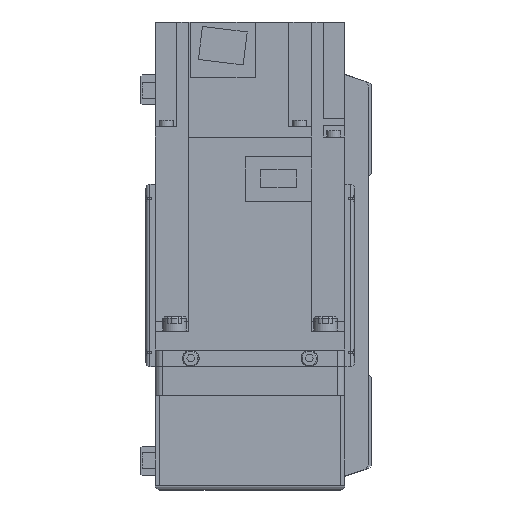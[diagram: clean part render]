
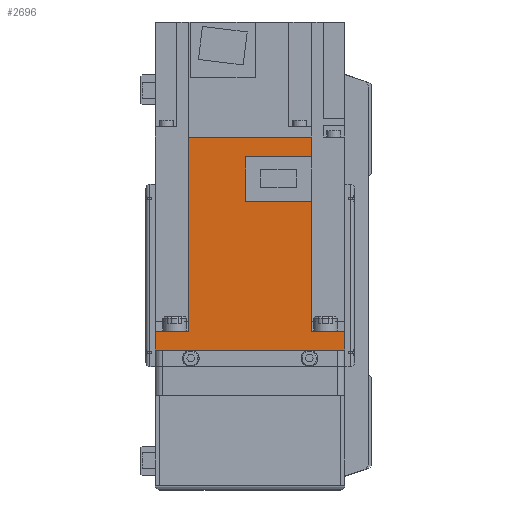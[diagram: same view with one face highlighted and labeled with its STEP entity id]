
A CAD part, left-side view. The second image highlights one B-rep face of the part: STEP entity #2696.
In plain terms, the highlighted planar face has unit normal (-1, 0, 0) as drawn and (1, 0, 0) by its records, which use the part's own axes.
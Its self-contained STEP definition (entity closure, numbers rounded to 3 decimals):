
#2696 = ADVANCED_FACE( '', ( #5877 ), #5878, .F. );
#5877 = FACE_OUTER_BOUND( '', #9433, .T. );
#5878 = PLANE( '', #9434 );
#9433 = EDGE_LOOP( '', ( #16986, #16987, #16988, #16989, #16990, #16991, #16992, #16993, #16994, #16995, #16996, #16997 ) );
#9434 = AXIS2_PLACEMENT_3D( '', #16998, #16999, #17000 );
#16986 = ORIENTED_EDGE( '', *, *, #23080, .F. );
#16987 = ORIENTED_EDGE( '', *, *, #23081, .F. );
#16988 = ORIENTED_EDGE( '', *, *, #23082, .F. );
#16989 = ORIENTED_EDGE( '', *, *, #22495, .T. );
#16990 = ORIENTED_EDGE( '', *, *, #22248, .F. );
#16991 = ORIENTED_EDGE( '', *, *, #23083, .T. );
#16992 = ORIENTED_EDGE( '', *, *, #20124, .T. );
#16993 = ORIENTED_EDGE( '', *, *, #21661, .F. );
#16994 = ORIENTED_EDGE( '', *, *, #23084, .F. );
#16995 = ORIENTED_EDGE( '', *, *, #23085, .F. );
#16996 = ORIENTED_EDGE( '', *, *, #23086, .F. );
#16997 = ORIENTED_EDGE( '', *, *, #20557, .F. );
#16998 = CARTESIAN_POINT( '', ( 40., 89.8, 40. ) );
#16999 = DIRECTION( '', ( -1., 0., 0. ) );
#17000 = DIRECTION( '', ( 0., 0., 1. ) );
#20124 = EDGE_CURVE( '', #23884, #23882, #23885, .T. );
#20557 = EDGE_CURVE( '', #24657, #24658, #24659, .T. );
#21661 = EDGE_CURVE( '', #26472, #23882, #26474, .T. );
#22248 = EDGE_CURVE( '', #27360, #27362, #27363, .T. );
#22495 = EDGE_CURVE( '', #27715, #27362, #27716, .T. );
#23080 = EDGE_CURVE( '', #28477, #24657, #28478, .T. );
#23081 = EDGE_CURVE( '', #28479, #28477, #28480, .T. );
#23082 = EDGE_CURVE( '', #27715, #28479, #28481, .T. );
#23083 = EDGE_CURVE( '', #27360, #23884, #28482, .T. );
#23084 = EDGE_CURVE( '', #28483, #26472, #28484, .T. );
#23085 = EDGE_CURVE( '', #28485, #28483, #28486, .T. );
#23086 = EDGE_CURVE( '', #24658, #28485, #28487, .T. );
#23882 = VERTEX_POINT( '', #29459 );
#23884 = VERTEX_POINT( '', #29462 );
#23885 = LINE( '', #29463, #29464 );
#24657 = VERTEX_POINT( '', #30539 );
#24658 = VERTEX_POINT( '', #30540 );
#24659 = LINE( '', #30541, #30542 );
#26472 = VERTEX_POINT( '', #33271 );
#26474 = LINE( '', #33274, #33275 );
#27360 = VERTEX_POINT( '', #34891 );
#27362 = VERTEX_POINT( '', #34894 );
#27363 = LINE( '', #34895, #34896 );
#27715 = VERTEX_POINT( '', #35383 );
#27716 = LINE( '', #35384, #35385 );
#28477 = VERTEX_POINT( '', #36490 );
#28478 = LINE( '', #36491, #36492 );
#28479 = VERTEX_POINT( '', #36493 );
#28480 = LINE( '', #36494, #36495 );
#28481 = LINE( '', #36496, #36497 );
#28482 = LINE( '', #36498, #36499 );
#28483 = VERTEX_POINT( '', #36500 );
#28484 = LINE( '', #36501, #36502 );
#28485 = VERTEX_POINT( '', #36503 );
#28486 = LINE( '', #36504, #36505 );
#28487 = LINE( '', #36506, #36507 );
#29459 = CARTESIAN_POINT( '', ( 40., 0., -40. ) );
#29462 = CARTESIAN_POINT( '', ( 40., 0., 40. ) );
#29463 = CARTESIAN_POINT( '', ( 40., 0., 40. ) );
#29464 = VECTOR( '', #37685, 1000. );
#30539 = CARTESIAN_POINT( '', ( 40., 81.4, 1.8 ) );
#30540 = CARTESIAN_POINT( '', ( 40., 62.8, 1.8 ) );
#30541 = CARTESIAN_POINT( '', ( 40., 81.4, 1.8 ) );
#30542 = VECTOR( '', #38276, 1000. );
#33271 = CARTESIAN_POINT( '', ( 40., 8., -40. ) );
#33274 = CARTESIAN_POINT( '', ( 40., 89.8, -40. ) );
#33275 = VECTOR( '', #39681, 1000. );
#34891 = CARTESIAN_POINT( '', ( 40., 8., 40. ) );
#34894 = CARTESIAN_POINT( '', ( 40., 8., 25.95 ) );
#34895 = CARTESIAN_POINT( '', ( 40., 8., 40. ) );
#34896 = VECTOR( '', #40405, 1000. );
#35383 = CARTESIAN_POINT( '', ( 40., 89.8, 25.95 ) );
#35384 = CARTESIAN_POINT( '', ( 40., 158., 25.95 ) );
#35385 = VECTOR( '', #40697, 1000. );
#36490 = CARTESIAN_POINT( '', ( 40., 81.4, -25.95 ) );
#36491 = CARTESIAN_POINT( '', ( 40., 81.4, -26. ) );
#36492 = VECTOR( '', #41316, 1000. );
#36493 = CARTESIAN_POINT( '', ( 40., 89.8, -25.95 ) );
#36494 = CARTESIAN_POINT( '', ( 40., 158., -25.95 ) );
#36495 = VECTOR( '', #41317, 1000. );
#36496 = CARTESIAN_POINT( '', ( 40., 89.8, 40. ) );
#36497 = VECTOR( '', #41318, 1000. );
#36498 = CARTESIAN_POINT( '', ( 40., 89.8, 40. ) );
#36499 = VECTOR( '', #41319, 1000. );
#36500 = CARTESIAN_POINT( '', ( 40., 8., -25.95 ) );
#36501 = CARTESIAN_POINT( '', ( 40., 8., 40. ) );
#36502 = VECTOR( '', #41320, 1000. );
#36503 = CARTESIAN_POINT( '', ( 40., 62.8, -25.95 ) );
#36504 = CARTESIAN_POINT( '', ( 40., 158., -25.95 ) );
#36505 = VECTOR( '', #41321, 1000. );
#36506 = CARTESIAN_POINT( '', ( 40., 62.8, 1.8 ) );
#36507 = VECTOR( '', #41322, 1000. );
#37685 = DIRECTION( '', ( 0., 0., -1. ) );
#38276 = DIRECTION( '', ( 0., -1., 0. ) );
#39681 = DIRECTION( '', ( 0., -1., 0. ) );
#40405 = DIRECTION( '', ( 0., 0., -1. ) );
#40697 = DIRECTION( '', ( 0., -1., 0. ) );
#41316 = DIRECTION( '', ( 0., 0., 1. ) );
#41317 = DIRECTION( '', ( 0., -1., 0. ) );
#41318 = DIRECTION( '', ( 0., 0., -1. ) );
#41319 = DIRECTION( '', ( 0., -1., 0. ) );
#41320 = DIRECTION( '', ( 0., 0., -1. ) );
#41321 = DIRECTION( '', ( 0., -1., 0. ) );
#41322 = DIRECTION( '', ( 0., 0., -1. ) );
